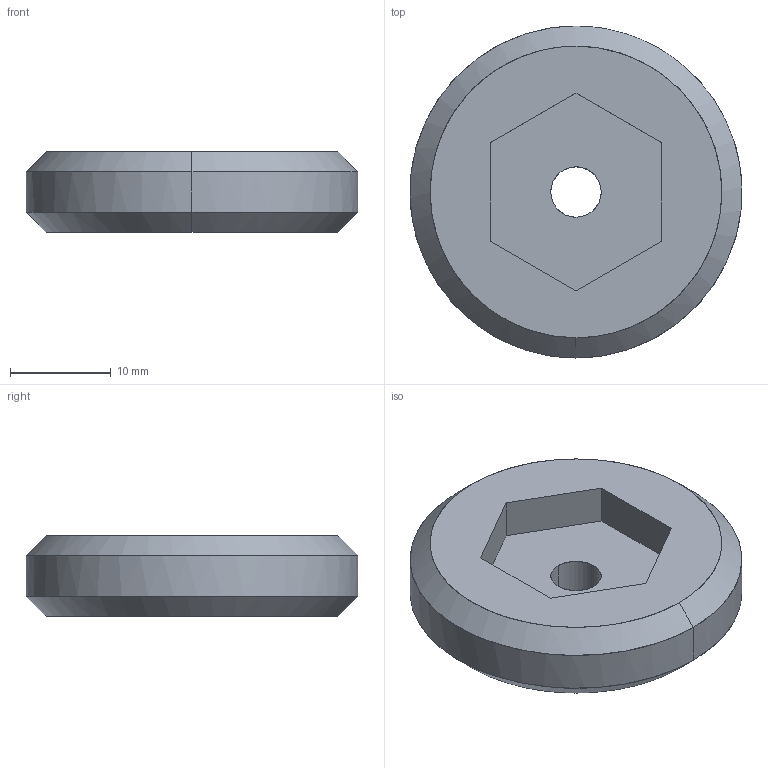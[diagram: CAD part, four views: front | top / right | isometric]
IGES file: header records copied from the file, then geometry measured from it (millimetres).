
Global section: file name: E:\UnigraphicsGraphicData\MISUMI_PRESS-PARTS\IGES\3d_mswsh33-8_00478_r00.igs; native system: NX V5.0; preprocessor: UGS NX IGES V5.0; author: MISUMI; date: 20110105.161527; units: millimetre
Bounding box: 32.98 x 33 x 8 mm (x, y, z)
Surface area: 2545.9 mm2 (no closed solid volume)
Topology: 0 solids, 0 shells, 17 faces, 116 edges, 116 vertices
Faces by surface type: bspline 17
